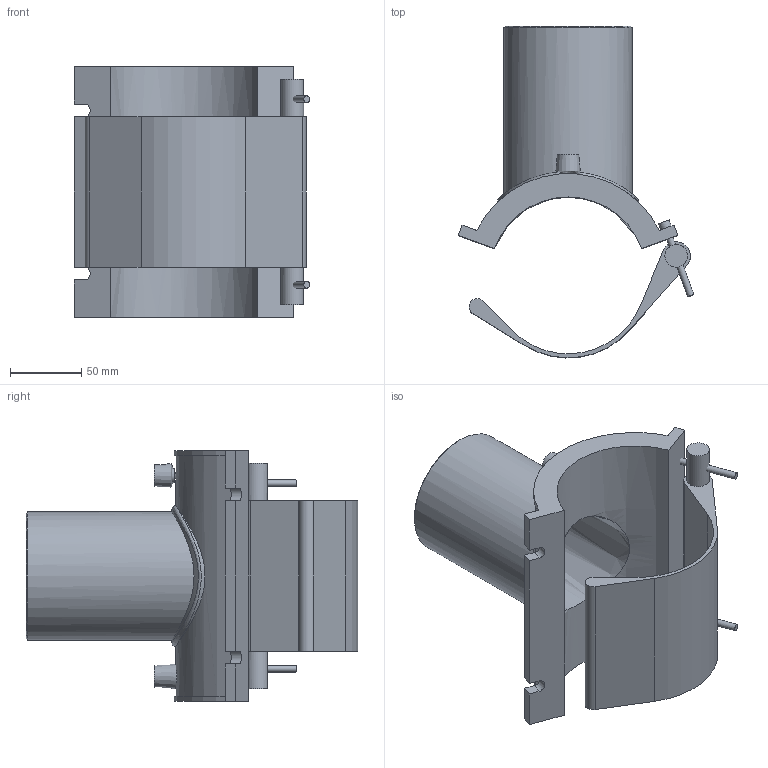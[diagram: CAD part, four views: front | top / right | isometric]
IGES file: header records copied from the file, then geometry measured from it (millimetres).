
Global section: file name: 495804110090.ipt; native system: Autodesk Inventor 2015; preprocessor: unknown; author: KIM; date: 20180426.120838; units: millimetre
Bounding box: 165.24 x 232.73 x 176 mm (x, y, z)
Volume: 787477.3 mm3; surface area: 178911 mm2
Topology: 5 solids, 5 shells, 65 faces, 135 edges, 91 vertices
Faces by surface type: plane 37, cylinder 17, revolution 7, cone 3, bspline 1
Full cylindrical faces by diameter (mm): 4 x2, 4.62 x2, 7.7 x2, 15.84 x2, 90 x1, 99 x1
